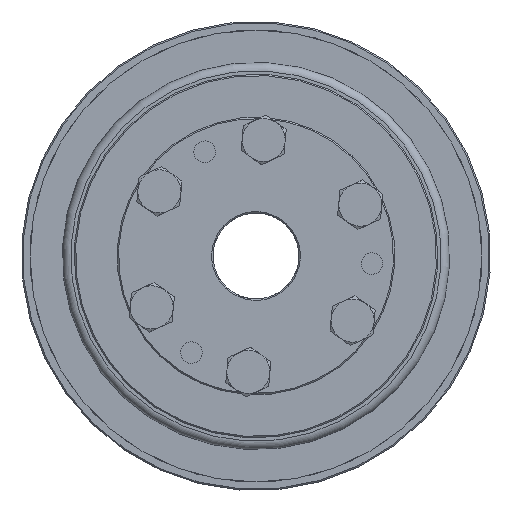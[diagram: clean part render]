
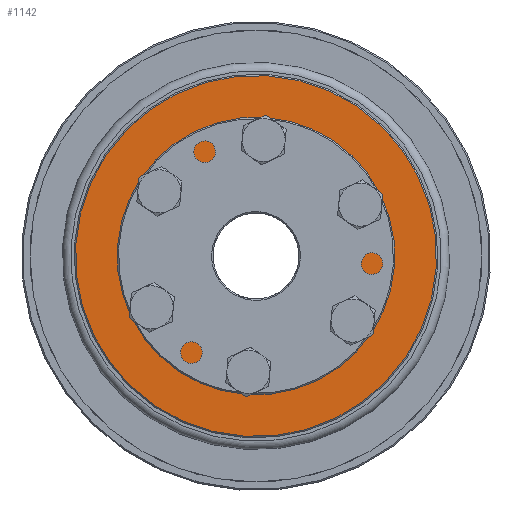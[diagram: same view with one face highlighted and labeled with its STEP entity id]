
A CAD part, left-side view. The second image highlights one B-rep face of the part: STEP entity #1142.
In plain terms, the highlighted planar face has unit normal (-1, 0, 0) as drawn and (1, 0, 0) by its records, which use the part's own axes.
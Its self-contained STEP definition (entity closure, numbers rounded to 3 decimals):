
#1142 = ADVANCED_FACE( 'NONE', ( #2302, #2303, #2304, #2305, #2306, #2307, #2308, #2309 ), #2310, .F. );
#2302 = FACE_OUTER_BOUND( '', #3391, .T. );
#2303 = FACE_BOUND( '', #3392, .T. );
#2304 = FACE_BOUND( '', #3393, .T. );
#2305 = FACE_BOUND( '', #3394, .T. );
#2306 = FACE_BOUND( '', #3395, .T. );
#2307 = FACE_BOUND( '', #3396, .T. );
#2308 = FACE_BOUND( '', #3397, .T. );
#2309 = FACE_BOUND( '', #3398, .T. );
#2310 = PLANE( '', #3399 );
#3391 = EDGE_LOOP( '', ( #5042 ) );
#3392 = EDGE_LOOP( '', ( #5043 ) );
#3393 = EDGE_LOOP( '', ( #5044 ) );
#3394 = EDGE_LOOP( '', ( #5045 ) );
#3395 = EDGE_LOOP( '', ( #5046 ) );
#3396 = EDGE_LOOP( '', ( #5047 ) );
#3397 = EDGE_LOOP( '', ( #5048 ) );
#3398 = EDGE_LOOP( '', ( #5049 ) );
#3399 = AXIS2_PLACEMENT_3D( '', #5050, #5051, #5052 );
#5042 = ORIENTED_EDGE( '', *, *, #5553, .T. );
#5043 = ORIENTED_EDGE( '', *, *, #5247, .T. );
#5044 = ORIENTED_EDGE( '', *, *, #5300, .F. );
#5045 = ORIENTED_EDGE( '', *, *, #5485, .F. );
#5046 = ORIENTED_EDGE( '', *, *, #5714, .F. );
#5047 = ORIENTED_EDGE( '', *, *, #5567, .F. );
#5048 = ORIENTED_EDGE( '', *, *, #5694, .F. );
#5049 = ORIENTED_EDGE( '', *, *, #5513, .F. );
#5050 = CARTESIAN_POINT( '', ( 20., 42.25, 0. ) );
#5051 = DIRECTION( '', ( -1., 0., 0. ) );
#5052 = DIRECTION( '', ( 0., 0., 1. ) );
#5247 = EDGE_CURVE( 'NONE', #5918, #5918, #5919, .T. );
#5300 = EDGE_CURVE( 'NONE', #6006, #6006, #6007, .T. );
#5485 = EDGE_CURVE( 'NONE', #6283, #6283, #6284, .T. );
#5513 = EDGE_CURVE( 'NONE', #6328, #6328, #6329, .T. );
#5553 = EDGE_CURVE( 'NONE', #6382, #6382, #6383, .T. );
#5567 = EDGE_CURVE( 'NONE', #6399, #6399, #6400, .T. );
#5694 = EDGE_CURVE( 'NONE', #6567, #6567, #6568, .T. );
#5714 = EDGE_CURVE( 'NONE', #6588, #6588, #6589, .T. );
#5918 = VERTEX_POINT( '', #6840 );
#5919 = CIRCLE( '', #6841, 23.558 );
#6006 = VERTEX_POINT( '', #6943 );
#6007 = CIRCLE( '', #6944, 3. );
#6283 = VERTEX_POINT( '', #7492 );
#6284 = CIRCLE( '', #7493, 3. );
#6328 = VERTEX_POINT( '', #7606 );
#6329 = CIRCLE( '', #7607, 3. );
#6382 = VERTEX_POINT( '', #7664 );
#6383 = CIRCLE( '', #7665, 41.95 );
#6399 = VERTEX_POINT( '', #7691 );
#6400 = CIRCLE( '', #7692, 3. );
#6567 = VERTEX_POINT( '', #7942 );
#6568 = CIRCLE( '', #7943, 3. );
#6588 = VERTEX_POINT( '', #7966 );
#6589 = CIRCLE( '', #7967, 3. );
#6840 = CARTESIAN_POINT( '', ( 20., 0., 23.558 ) );
#6841 = AXIS2_PLACEMENT_3D( '', #8159, #8160, #8161 );
#6943 = CARTESIAN_POINT( '', ( 20., -13.5, 20.383 ) );
#6944 = AXIS2_PLACEMENT_3D( '', #8252, #8253, #8254 );
#7492 = CARTESIAN_POINT( '', ( 20., 27., -3. ) );
#7493 = AXIS2_PLACEMENT_3D( '', #8522, #8523, #8524 );
#7606 = CARTESIAN_POINT( '', ( 20., 13.5, 20.383 ) );
#7607 = AXIS2_PLACEMENT_3D( '', #8563, #8564, #8565 );
#7664 = CARTESIAN_POINT( '', ( 20., 0., 41.95 ) );
#7665 = AXIS2_PLACEMENT_3D( '', #8627, #8628, #8629 );
#7691 = CARTESIAN_POINT( '', ( 20., -13.5, -26.383 ) );
#7692 = AXIS2_PLACEMENT_3D( '', #8640, #8641, #8642 );
#7942 = CARTESIAN_POINT( '', ( 20., -27., -3. ) );
#7943 = AXIS2_PLACEMENT_3D( '', #8777, #8778, #8779 );
#7966 = CARTESIAN_POINT( '', ( 20., 13.5, -26.383 ) );
#7967 = AXIS2_PLACEMENT_3D( '', #8783, #8784, #8785 );
#8159 = CARTESIAN_POINT( '', ( 20., 0., 0. ) );
#8160 = DIRECTION( '', ( -1., 0., 0. ) );
#8161 = DIRECTION( '', ( 0., 0., 1. ) );
#8252 = CARTESIAN_POINT( '', ( 20., -13.5, 23.383 ) );
#8253 = DIRECTION( '', ( 1., 0., 0. ) );
#8254 = DIRECTION( '', ( 0., 0., -1. ) );
#8522 = CARTESIAN_POINT( '', ( 20., 27., 0. ) );
#8523 = DIRECTION( '', ( 1., 0., 0. ) );
#8524 = DIRECTION( '', ( 0., 0., -1. ) );
#8563 = CARTESIAN_POINT( '', ( 20., 13.5, 23.383 ) );
#8564 = DIRECTION( '', ( 1., 0., 0. ) );
#8565 = DIRECTION( '', ( 0., 0., -1. ) );
#8627 = CARTESIAN_POINT( '', ( 20., 0., 0. ) );
#8628 = DIRECTION( '', ( 1., 0., 0. ) );
#8629 = DIRECTION( '', ( 0., 0., 1. ) );
#8640 = CARTESIAN_POINT( '', ( 20., -13.5, -23.383 ) );
#8641 = DIRECTION( '', ( 1., 0., 0. ) );
#8642 = DIRECTION( '', ( 0., 0., -1. ) );
#8777 = CARTESIAN_POINT( '', ( 20., -27., 0. ) );
#8778 = DIRECTION( '', ( 1., 0., 0. ) );
#8779 = DIRECTION( '', ( 0., 0., -1. ) );
#8783 = CARTESIAN_POINT( '', ( 20., 13.5, -23.383 ) );
#8784 = DIRECTION( '', ( 1., 0., 0. ) );
#8785 = DIRECTION( '', ( 0., 0., -1. ) );
